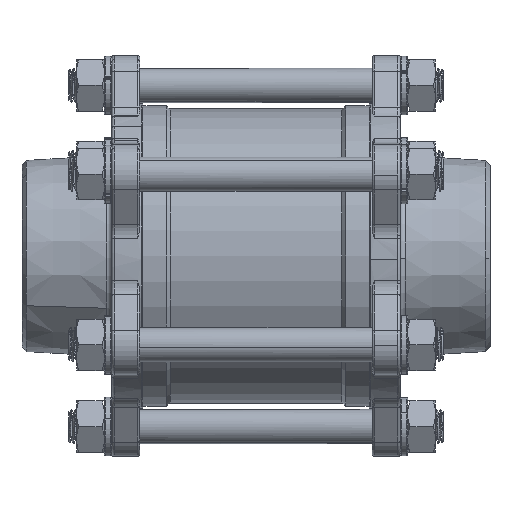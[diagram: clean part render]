
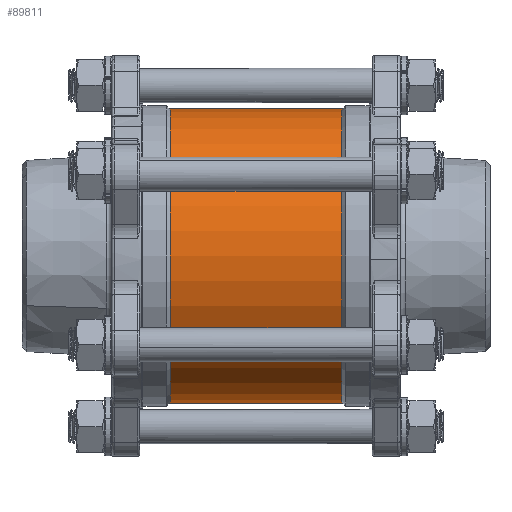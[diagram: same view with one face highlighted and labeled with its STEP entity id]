
A CAD part, front view. The second image highlights one B-rep face of the part: STEP entity #89811.
In plain terms, the highlighted cylindrical face has radius 68.5 mm (diameter 137 mm), a partial arc.
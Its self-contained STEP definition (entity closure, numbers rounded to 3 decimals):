
#9946 = DIRECTION ( 'NONE',  ( -1., 0., 0. ) ) ;
#9947 = VECTOR ( 'NONE', #9946, 1000. ) ;
#9948 = CARTESIAN_POINT ( 'NONE',  ( -64.949, 0., 68.5 ) ) ;
#9949 = DIRECTION ( 'NONE',  ( 0., 0., 1. ) ) ;
#9950 = DIRECTION ( 'NONE',  ( -1., 0., 0. ) ) ;
#9951 = CARTESIAN_POINT ( 'NONE',  ( -64.949, 0., 0. ) ) ;
#9952 = AXIS2_PLACEMENT_3D ( 'NONE', #9951, #9950, #9949 ) ;
#9953 = CYLINDRICAL_SURFACE ( 'NONE', #9952, 68.5 ) ;
#9954 = LINE ( 'NONE', #9948, #9947 ) ;
#9955 = FACE_OUTER_BOUND ( 'NONE', #89812, .T. ) ;
#9960 = DIRECTION ( 'NONE',  ( -1., 0., 0. ) ) ;
#9961 = VECTOR ( 'NONE', #9960, 1000. ) ;
#9962 = CARTESIAN_POINT ( 'NONE',  ( -64.949, 0., -68.5 ) ) ;
#9963 = LINE ( 'NONE', #9962, #9961 ) ;
#10047 = DIRECTION ( 'NONE',  ( -1., 0., 0. ) ) ;
#10048 = CARTESIAN_POINT ( 'NONE',  ( 40.05, 0., 0. ) ) ;
#10049 = AXIS2_PLACEMENT_3D ( 'NONE', #10048, #10047, #10108 ) ;
#10055 = CIRCLE ( 'NONE', #10049, 68.5 ) ;
#10063 = CARTESIAN_POINT ( 'NONE',  ( -40.05, 0., 68.5 ) ) ;
#10064 = DIRECTION ( 'NONE',  ( 0., 0., 1. ) ) ;
#10065 = DIRECTION ( 'NONE',  ( -1., 0., 0. ) ) ;
#10066 = CARTESIAN_POINT ( 'NONE',  ( -40.05, 0., 0. ) ) ;
#10067 = AXIS2_PLACEMENT_3D ( 'NONE', #10066, #10065, #10064 ) ;
#10072 = CIRCLE ( 'NONE', #10067, 68.5 ) ;
#10086 = CARTESIAN_POINT ( 'NONE',  ( 40.05, 0., 68.5 ) ) ;
#10107 = CARTESIAN_POINT ( 'NONE',  ( 40.05, 0., -68.5 ) ) ;
#10108 = DIRECTION ( 'NONE',  ( 0., 0., 1. ) ) ;
#10291 = CARTESIAN_POINT ( 'NONE',  ( -40.05, 0., -68.5 ) ) ;
#89807 = EDGE_CURVE ( 'NONE', #89867, #89928, #9963, .T. ) ;
#89811 = ADVANCED_FACE ( 'NONE', ( #9955 ), #9953, .T. ) ;
#89812 = EDGE_LOOP ( 'NONE', ( #89813, #89814, #89815, #89817 ) ) ;
#89813 = ORIENTED_EDGE ( 'NONE', *, *, #89807, .F. ) ;
#89814 = ORIENTED_EDGE ( 'NONE', *, *, #89866, .T. ) ;
#89815 = ORIENTED_EDGE ( 'NONE', *, *, #89816, .T. ) ;
#89816 = EDGE_CURVE ( 'NONE', #89876, #89858, #9954, .T. ) ;
#89817 = ORIENTED_EDGE ( 'NONE', *, *, #89857, .F. ) ;
#89857 = EDGE_CURVE ( 'NONE', #89928, #89858, #10072, .T. ) ;
#89858 = VERTEX_POINT ( 'NONE', #10063 ) ;
#89866 = EDGE_CURVE ( 'NONE', #89867, #89876, #10055, .T. ) ;
#89867 = VERTEX_POINT ( 'NONE', #10107 ) ;
#89876 = VERTEX_POINT ( 'NONE', #10086 ) ;
#89928 = VERTEX_POINT ( 'NONE', #10291 ) ;
